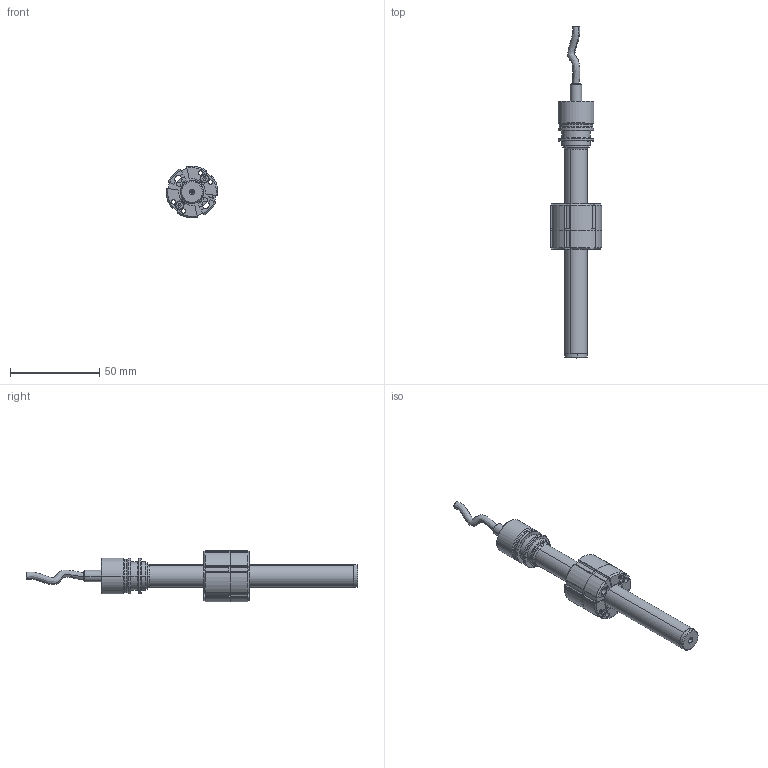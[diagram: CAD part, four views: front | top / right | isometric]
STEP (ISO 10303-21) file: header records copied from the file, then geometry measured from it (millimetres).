
FILE_DESCRIPTION (( 'STEP AP203' ), '1' );
FILE_NAME ('PMISL-F-0050-X.STEP', '2011-02-15T16:50:13', ( 'loda' ), ( '' ), 'SwSTEP 2.0', 'SolidWorks 2010', '' );
FILE_SCHEMA (( 'CONFIG_CONTROL_DESIGN' ));
Length unit declared in the file: millimetre
Products named in the file (13): TAP014X; PMI-SLIM cavoX; INS003X; CUS847X; TERMORX; PMISL-F-0050-X; NIP055X; TUB535X; PUN016X; PMI-SLIM saldaturaX; PCUR010X; CUS846X; MIM803X_MIM803
Assembly tree (14 placements, depth 3):
  PMISL-F-0050-X
    PMI-SLIM cavoX
    NIP055X
    TAP014X
    TERMORX
    PMI-SLIM saldaturaX
    TUB535X
    PCUR010X
      INS003X  x2
      MIM803X_MIM803  x2
      CUS846X
      CUS847X
    PUN016X
Bounding box: 28.99 x 186.37 x 28.97 mm (x, y, z)
Volume: 34216.5 mm3; surface area: 18516.9 mm2
Topology: 13 solids, 13 shells, 983 faces, 2592 edges, 1637 vertices
Faces by surface type: cone 392, cylinder 372, plane 191, torus 20, bspline 8
Entity records: 24251 total; most frequent: CARTESIAN_POINT 4851, DIRECTION 4142, ORIENTED_EDGE 3656, EDGE_CURVE 1828, AXIS2_PLACEMENT_3D 1641, VERTEX_POINT 1166, CIRCLE 942, VECTOR 860
